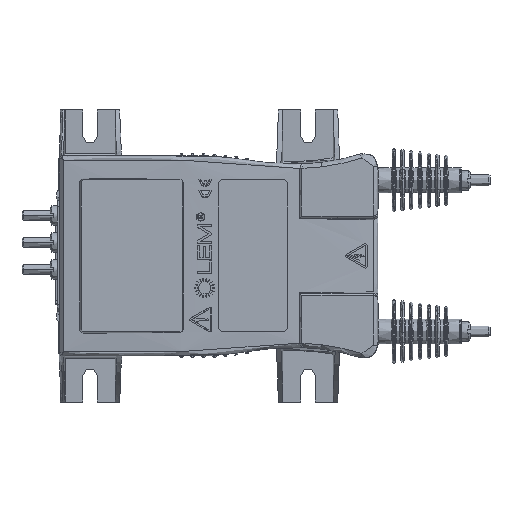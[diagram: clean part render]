
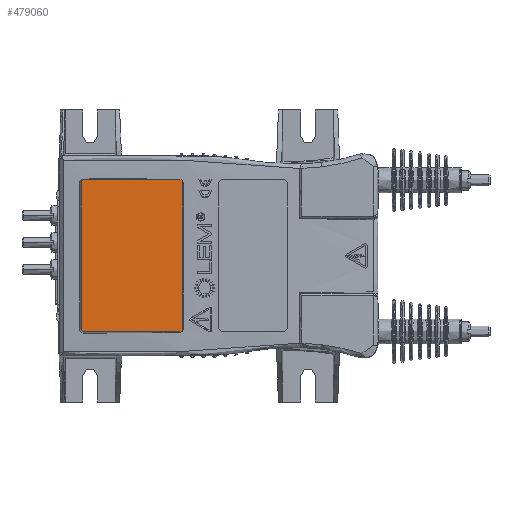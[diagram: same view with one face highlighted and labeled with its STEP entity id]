
A CAD part, top view. The second image highlights one B-rep face of the part: STEP entity #479060.
In plain terms, the highlighted planar face has unit normal (0, 0, 1).
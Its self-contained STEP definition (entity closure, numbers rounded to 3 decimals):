
#478060=CARTESIAN_POINT('',(-6.875,33.221,64.413)
);
#478070=VERTEX_POINT('',#478060);
#478100=CARTESIAN_POINT('',(-6.875,-3.943,
64.413));
#478110=DIRECTION('',(0.,1.,0.));
#478120=VECTOR('',#478110,1.);
#478130=LINE('',#478100,#478120);
#478140=CARTESIAN_POINT('',(-6.875,-33.716,
64.413));
#478150=VERTEX_POINT('',#478140);
#478160=EDGE_CURVE('',#478150,#478070,#478130,.T.);
#478320=CARTESIAN_POINT('',(-5.397,34.698,64.413
));
#478330=VERTEX_POINT('',#478320);
#478360=CARTESIAN_POINT('',(-5.352,33.175,64.413
));
#478370=DIRECTION('',(0.,0.,1.));
#478380=DIRECTION('',(0.707,-0.707,
0.));
#478390=AXIS2_PLACEMENT_3D('',#478360,#478370,#478380);
#478400=ELLIPSE('',#478390,1.546,1.5);
#478410=EDGE_CURVE('',#478330,#478070,#478400,.T.);
#478480=CARTESIAN_POINT('',(-59.837,-65.738,64.413
));
#478490=DIRECTION('',(0.,0.,1.));
#478500=DIRECTION('',(-1.,0.,0.));
#478510=AXIS2_PLACEMENT_3D('',#478480,#478490,#478500);
#478520=PLANE('',#478510);
#478530=CARTESIAN_POINT('',(38.354,-33.67,64.413
));
#478540=DIRECTION('',(0.,0.,-1.));
#478550=DIRECTION('',(-0.707,0.707,
0.));
#478560=AXIS2_PLACEMENT_3D('',#478530,#478540,#478550);
#478570=ELLIPSE('',#478560,1.546,1.5);
#478580=CARTESIAN_POINT('',(39.877,-33.716,64.413
));
#478590=VERTEX_POINT('',#478580);
#478600=CARTESIAN_POINT('',(38.4,-35.193,64.413
));
#478610=VERTEX_POINT('',#478600);
#478620=EDGE_CURVE('',#478590,#478610,#478570,.T.);
#478630=ORIENTED_EDGE('',*,*,#478620,.F.);
#478640=CARTESIAN_POINT('',(-94.921,-35.193,
64.413));
#478650=DIRECTION('',(-1.,0.,0.));
#478660=VECTOR('',#478650,1.);
#478670=LINE('',#478640,#478660);
#478680=CARTESIAN_POINT('',(-5.397,-35.193,
64.413));
#478690=VERTEX_POINT('',#478680);
#478700=EDGE_CURVE('',#478610,#478690,#478670,.T.);
#478710=ORIENTED_EDGE('',*,*,#478700,.F.);
#478720=CARTESIAN_POINT('',(-5.352,-33.67,
64.413));
#478730=DIRECTION('',(0.,0.,-1.));
#478740=DIRECTION('',(0.707,0.707,
0.));
#478750=AXIS2_PLACEMENT_3D('',#478720,#478730,#478740);
#478760=ELLIPSE('',#478750,1.546,1.5);
#478770=EDGE_CURVE('',#478690,#478150,#478760,.T.);
#478780=ORIENTED_EDGE('',*,*,#478770,.F.);
#478790=ORIENTED_EDGE('',*,*,#478160,.F.);
#478800=ORIENTED_EDGE('',*,*,#478410,.T.);
#478810=CARTESIAN_POINT('',(-94.921,34.698,64.413
));
#478820=DIRECTION('',(-1.,0.,0.));
#478830=VECTOR('',#478820,1.);
#478840=LINE('',#478810,#478830);
#478850=CARTESIAN_POINT('',(38.4,34.698,64.413)
);
#478860=VERTEX_POINT('',#478850);
#478870=EDGE_CURVE('',#478860,#478330,#478840,.T.);
#478880=ORIENTED_EDGE('',*,*,#478870,.T.);
#478890=CARTESIAN_POINT('',(38.354,33.175,64.413)
);
#478900=DIRECTION('',(0.,0.,1.));
#478910=DIRECTION('',(-0.707,-0.707,
0.));
#478920=AXIS2_PLACEMENT_3D('',#478890,#478900,#478910);
#478930=ELLIPSE('',#478920,1.546,1.5);
#478940=CARTESIAN_POINT('',(39.877,33.221,64.413))
;
#478950=VERTEX_POINT('',#478940);
#478960=EDGE_CURVE('',#478950,#478860,#478930,.T.);
#478970=ORIENTED_EDGE('',*,*,#478960,.T.);
#478980=CARTESIAN_POINT('',(39.877,-3.943,64.413
));
#478990=DIRECTION('',(0.,-1.,0.));
#479000=VECTOR('',#478990,1.);
#479010=LINE('',#478980,#479000);
#479020=EDGE_CURVE('',#478950,#478590,#479010,.T.);
#479030=ORIENTED_EDGE('',*,*,#479020,.F.);
#479040=EDGE_LOOP('',(#479030,#478970,#478880,#478800,#478790,#478780,
#478710,#478630));
#479050=FACE_OUTER_BOUND('',#479040,.T.);
#479060=ADVANCED_FACE('',(#479050),#478520,.T.);
